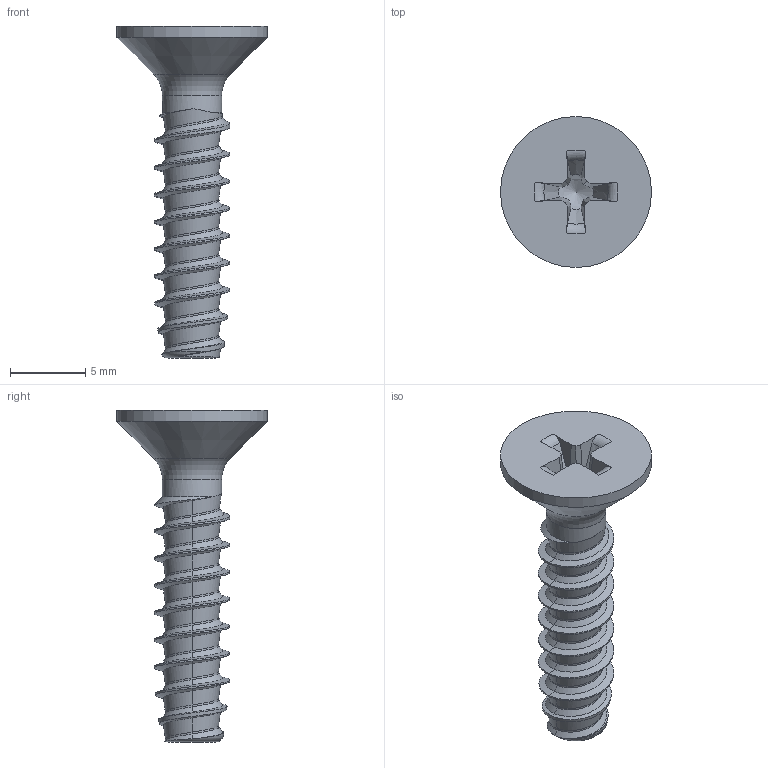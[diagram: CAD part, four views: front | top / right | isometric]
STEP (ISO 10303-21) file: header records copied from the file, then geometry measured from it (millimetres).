
FILE_DESCRIPTION(/* description */ (''),/* implementation_level */ '2;1');
FILE_NAME(/* name */ 'KN6041-STSplus-50x22-H2.step',/* time_stamp */ '2017-10-12T12:46:48+02:00',/* author */ (''),/* organization */ (''),/* preprocessor_version */ 'ST-DEVELOPER v16',/* originating_system */ 'SIEMENS PLM Software NX 10.0',/* authorisation */ '');
FILE_SCHEMA (('AUTOMOTIVE_DESIGN { 1 0 10303 214 3 1 1 1 }'));
Length unit declared in the file: millimetre
Products named in the file (1): KN6041-STSplus-50x22-H2
Bounding box: 10 x 10 x 22 mm (x, y, z)
Volume: 386.2 mm3; surface area: 555.4 mm2
Topology: 1 solids, 1 shells, 84 faces, 209 edges, 127 vertices
Faces by surface type: bspline 49, plane 18, cone 8, torus 6, cylinder 3
Full cylindrical faces by diameter (mm): 3.92 x1, 10 x1
Entity records: 5089 total; most frequent: CARTESIAN_POINT 3481, ORIENTED_EDGE 396, EDGE_CURVE 198, DIRECTION 186, VERTEX_POINT 123, B_SPLINE_CURVE_WITH_KNOTS 105, EDGE_LOOP 90, ADVANCED_FACE 84
